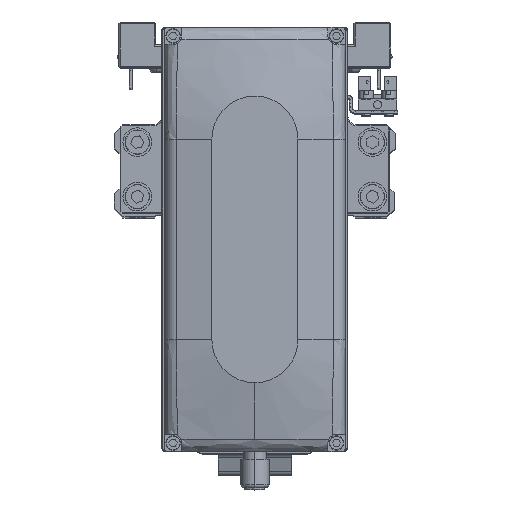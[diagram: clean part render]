
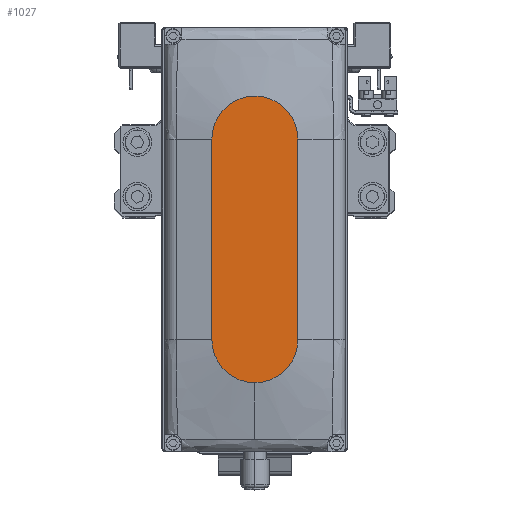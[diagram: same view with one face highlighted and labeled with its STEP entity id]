
A CAD part, top view. The second image highlights one B-rep face of the part: STEP entity #1027.
In plain terms, the highlighted planar face has unit normal (0, 0, 1).
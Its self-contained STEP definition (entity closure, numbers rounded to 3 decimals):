
#673 = ORIENTED_EDGE ( 'NONE', *, *, #28621, .T. ) ;
#950 = ORIENTED_EDGE ( 'NONE', *, *, #34934, .T. ) ;
#1027 = ADVANCED_FACE ( 'NONE', ( #18877 ), #30881, .T. ) ;
#1160 = CARTESIAN_POINT ( 'NONE',  ( -35., -15., 35. ) ) ;
#1764 = DIRECTION ( 'NONE',  ( 1., 0., 0. ) ) ;
#2592 = VERTEX_POINT ( 'NONE', #25673 ) ;
#2810 = VERTEX_POINT ( 'NONE', #33108 ) ;
#3639 = AXIS2_PLACEMENT_3D ( 'NONE', #26223, #38205, #11237 ) ;
#3902 = CARTESIAN_POINT ( 'NONE',  ( 0., 0., 35. ) ) ;
#6131 = VECTOR ( 'NONE', #10864, 1000. ) ;
#6666 = AXIS2_PLACEMENT_3D ( 'NONE', #38232, #11263, #23279 ) ;
#8444 = EDGE_CURVE ( 'NONE', #10481, #32354, #20628, .T. ) ;
#10481 = VERTEX_POINT ( 'NONE', #31385 ) ;
#10864 = DIRECTION ( 'NONE',  ( -1., 0., 0. ) ) ;
#11237 = DIRECTION ( 'NONE',  ( 1., 0., 0. ) ) ;
#11263 = DIRECTION ( 'NONE',  ( 0., 0., 1. ) ) ;
#13174 = LINE ( 'NONE', #25185, #17612 ) ;
#14168 = CIRCLE ( 'NONE', #36147, 15. ) ;
#15922 = DIRECTION ( 'NONE',  ( 0., 0., 1. ) ) ;
#16751 = CARTESIAN_POINT ( 'NONE',  ( 35., 0., 35. ) ) ;
#17612 = VECTOR ( 'NONE', #37181, 1000. ) ;
#18877 = FACE_OUTER_BOUND ( 'NONE', #27679, .T. ) ;
#20628 = CIRCLE ( 'NONE', #3639, 15. ) ;
#23279 = DIRECTION ( 'NONE',  ( 1., 0., 0. ) ) ;
#23527 = CARTESIAN_POINT ( 'NONE',  ( 35., -15., 35. ) ) ;
#23663 = CIRCLE ( 'NONE', #6666, 15. ) ;
#25068 = ORIENTED_EDGE ( 'NONE', *, *, #8444, .T. ) ;
#25185 = CARTESIAN_POINT ( 'NONE',  ( -35., -15., 35. ) ) ;
#25673 = CARTESIAN_POINT ( 'NONE',  ( 35., 15., 35. ) ) ;
#25842 = LINE ( 'NONE', #37830, #6131 ) ;
#26223 = CARTESIAN_POINT ( 'NONE',  ( -35., 0., 35. ) ) ;
#27679 = EDGE_LOOP ( 'NONE', ( #673, #25068, #37063, #33198, #950 ) ) ;
#27941 = DIRECTION ( 'NONE',  ( 1., 0., 0. ) ) ;
#28621 = EDGE_CURVE ( 'NONE', #2592, #10481, #25842, .T. ) ;
#28776 = DIRECTION ( 'NONE',  ( 0., 0., 1. ) ) ;
#29690 = AXIS2_PLACEMENT_3D ( 'NONE', #3902, #15922, #27941 ) ;
#30022 = EDGE_CURVE ( 'NONE', #32354, #34559, #13174, .T. ) ;
#30881 = PLANE ( 'NONE',  #29690 ) ;
#31385 = CARTESIAN_POINT ( 'NONE',  ( -35., 15., 35. ) ) ;
#32354 = VERTEX_POINT ( 'NONE', #1160 ) ;
#33108 = CARTESIAN_POINT ( 'NONE',  ( 50., 0., 35. ) ) ;
#33198 = ORIENTED_EDGE ( 'NONE', *, *, #33697, .T. ) ;
#33697 = EDGE_CURVE ( 'NONE', #34559, #2810, #14168, .T. ) ;
#34559 = VERTEX_POINT ( 'NONE', #23527 ) ;
#34934 = EDGE_CURVE ( 'NONE', #2810, #2592, #23663, .T. ) ;
#36147 = AXIS2_PLACEMENT_3D ( 'NONE', #16751, #28776, #1764 ) ;
#37063 = ORIENTED_EDGE ( 'NONE', *, *, #30022, .T. ) ;
#37181 = DIRECTION ( 'NONE',  ( 1., 0., 0. ) ) ;
#37830 = CARTESIAN_POINT ( 'NONE',  ( -35., 15., 35. ) ) ;
#38205 = DIRECTION ( 'NONE',  ( 0., 0., 1. ) ) ;
#38232 = CARTESIAN_POINT ( 'NONE',  ( 35., 0., 35. ) ) ;
